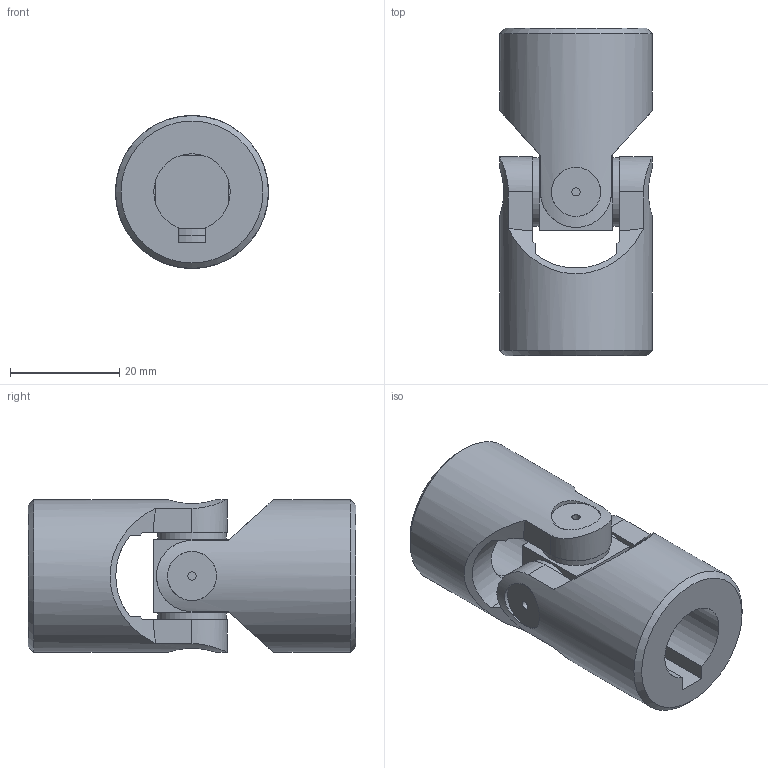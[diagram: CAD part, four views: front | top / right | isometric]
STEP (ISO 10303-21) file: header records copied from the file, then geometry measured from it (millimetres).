
FILE_DESCRIPTION(/* description */ ('EXTENSIBLE TRANSIMISSIONS Series G DIN 808 -2-'),/* implementation_level */ '2;1');
FILE_NAME(/* name */ '\\SRV2016\societa\Stefano\Disegni 3D\Dis. Clienti\0000Catalogo 3D\01Singoli G-GB\SG0S141C.stp',/* time_stamp */ '2021-11-08T15:38:31+01:00',/* author */ ('acquisti'),/* organization */ ('MARIOFERRI'),/* preprocessor_version */ 'ST-DEVELOPER v15.6',/* originating_system */ 'Autodesk Inventor 2015',/* authorisation */ '');
FILE_SCHEMA (('AUTOMOTIVE_DESIGN { 1 0 10303 214 3 1 1 }'));
Length unit declared in the file: millimetre
Products named in the file (4): 05G SFE; 05G MOS; 05G MOC; Assieme1
Assembly tree (3 placements, depth 2):
  Assieme1
    05G SFE
    05G MOS
    05G MOC
Bounding box: 28 x 60 x 28 mm (x, y, z)
Volume: 23929.1 mm3; surface area: 10163.9 mm2
Topology: 3 solids, 3 shells, 75 faces, 183 edges, 124 vertices
Faces by surface type: plane 39, cylinder 22, cone 12, torus 2
Full cylindrical faces by diameter (mm): 1.5 x4, 9 x4, 12.5 x4, 14 x1, 14.5 x1, 28 x2
Entity records: 2516 total; most frequent: CARTESIAN_POINT 849, DIRECTION 321, ORIENTED_EDGE 310, EDGE_CURVE 155, AXIS2_PLACEMENT_3D 138, VERTEX_POINT 117, EDGE_LOOP 110, FACE_OUTER_BOUND 75
